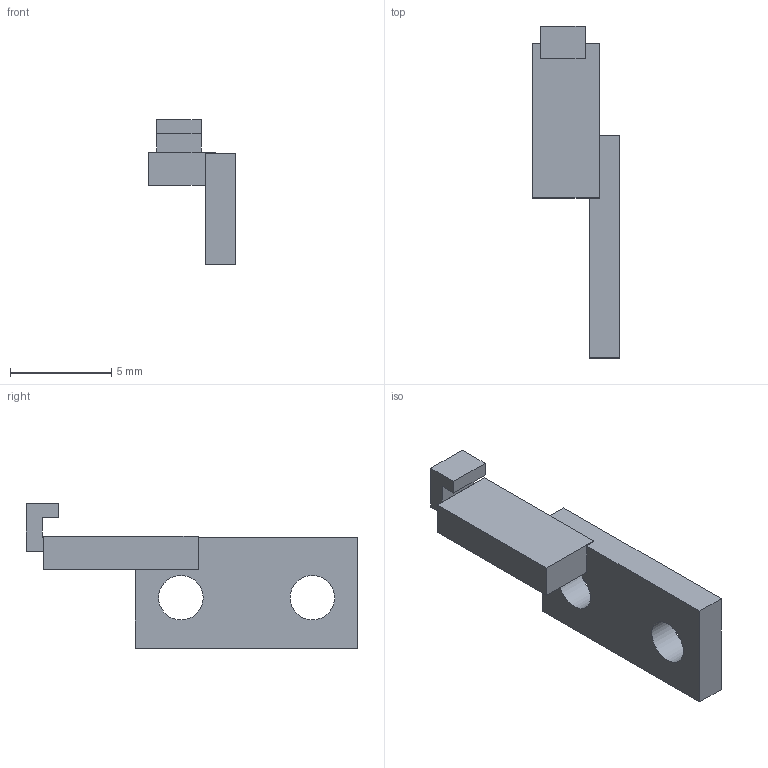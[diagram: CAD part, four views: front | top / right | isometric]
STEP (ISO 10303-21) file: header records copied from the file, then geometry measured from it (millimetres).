
FILE_DESCRIPTION(('FreeCAD Model'),'2;1');
FILE_NAME('Open CASCADE Shape Model','2026-11-13T19:00:49',('FreeCAD'),( 'FreeCAD'),'Open CASCADE STEP processor 7.8','FreeCAD','Unknown');
FILE_SCHEMA(('AUTOMOTIVE_DESIGN { 1 0 10303 214 1 1 1 1 }'));
Length unit declared in the file: millimetre
Products named in the file (1): Open CASCADE STEP translator 7.8 2
Bounding box: 4.3 x 16.4 x 7.15 mm (x, y, z)
Volume: 124 mm3; surface area: 267.5 mm2
Topology: 1 solids, 1 shells, 23 faces, 60 edges, 40 vertices
Faces by surface type: plane 21, cylinder 2
Full cylindrical faces by diameter (mm): 2.2 x2
Entity records: 716 total; most frequent: CARTESIAN_POINT 124, ORIENTED_EDGE 120, DIRECTION 112, EDGE_CURVE 60, LINE 56, VECTOR 56, VERTEX_POINT 40, AXIS2_PLACEMENT_3D 28
